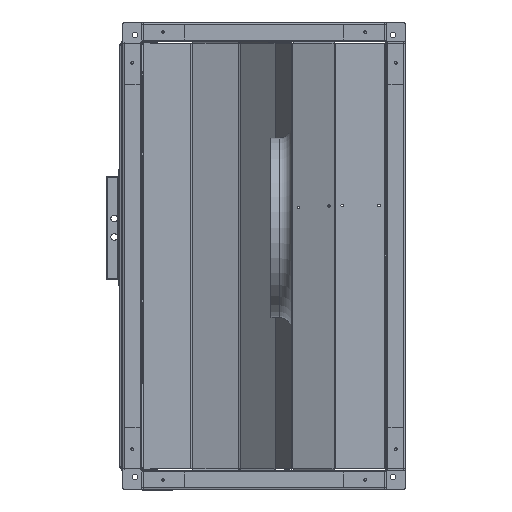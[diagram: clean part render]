
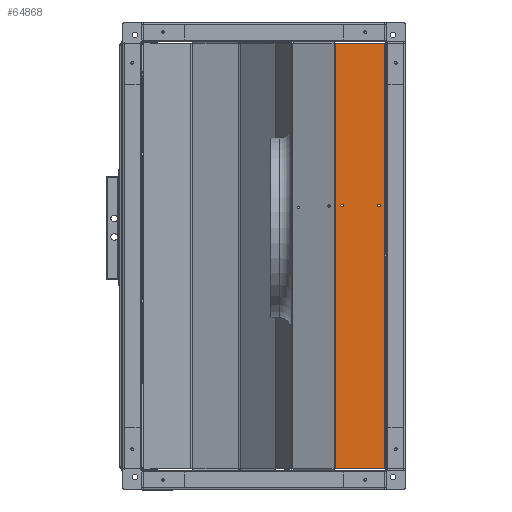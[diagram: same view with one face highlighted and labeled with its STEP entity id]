
A CAD part, left-side view. The second image highlights one B-rep face of the part: STEP entity #64868.
In plain terms, the highlighted planar face has unit normal (-1, 0, 0).
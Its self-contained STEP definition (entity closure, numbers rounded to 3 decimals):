
#5397 = VERTEX_POINT ( 'NONE', #89199 ) ;
#5444 = VERTEX_POINT ( 'NONE', #89208 ) ;
#5564 = VERTEX_POINT ( 'NONE', #84634 ) ;
#5565 = VERTEX_POINT ( 'NONE', #84633 ) ;
#5964 = CARTESIAN_POINT ( 'NONE',  ( -343.5, 3.3, 346.7 ) ) ;
#5965 = CARTESIAN_POINT ( 'NONE',  ( -343.5, 83.27, -346.7 ) ) ;
#9463 = CIRCLE ( 'NONE', #33470, 2.1 ) ;
#9494 = CIRCLE ( 'NONE', #33472, 2.1 ) ;
#9771 = LINE ( 'NONE', #36962, #9778 ) ;
#9778 = VECTOR ( 'NONE', #36964, 1000. ) ;
#9799 = CIRCLE ( 'NONE', #33497, 2.1 ) ;
#9804 = CIRCLE ( 'NONE', #33495, 2.1 ) ;
#9823 = LINE ( 'NONE', #37012, #9830 ) ;
#9830 = VECTOR ( 'NONE', #37013, 1000. ) ;
#9832 = LINE ( 'NONE', #11142, #9838 ) ;
#9838 = VECTOR ( 'NONE', #11145, 1000. ) ;
#9840 = LINE ( 'NONE', #11151, #9847 ) ;
#9847 = VECTOR ( 'NONE', #11154, 1000. ) ;
#11142 = CARTESIAN_POINT ( 'NONE',  ( -343.5, 2.707, 346.7 ) ) ;
#11145 = DIRECTION ( 'NONE',  ( 0., 1., 0. ) ) ;
#11151 = CARTESIAN_POINT ( 'NONE',  ( -343.5, 83.27, 349. ) ) ;
#11154 = DIRECTION ( 'NONE',  ( 0., 0., -1. ) ) ;
#26307 = AXIS2_PLACEMENT_3D ( 'NONE', #59825, #59823, #59829 ) ;
#33470 = AXIS2_PLACEMENT_3D ( 'NONE', #36743, #36744, #36745 ) ;
#33472 = AXIS2_PLACEMENT_3D ( 'NONE', #36761, #36762, #36763 ) ;
#33495 = AXIS2_PLACEMENT_3D ( 'NONE', #37001, #37002, #37003 ) ;
#33497 = AXIS2_PLACEMENT_3D ( 'NONE', #37009, #37010, #37011 ) ;
#36743 = CARTESIAN_POINT ( 'NONE',  ( -343.5, 12.8, 82.222 ) ) ;
#36744 = DIRECTION ( 'NONE',  ( -1., 0., 0. ) ) ;
#36745 = DIRECTION ( 'NONE',  ( 0., 0., 1. ) ) ;
#36761 = CARTESIAN_POINT ( 'NONE',  ( -343.5, 72.8, 82.222 ) ) ;
#36762 = DIRECTION ( 'NONE',  ( -1., 0., 0. ) ) ;
#36763 = DIRECTION ( 'NONE',  ( 0., 0., 1. ) ) ;
#36962 = CARTESIAN_POINT ( 'NONE',  ( -343.5, 3.3, -347.293 ) ) ;
#36964 = DIRECTION ( 'NONE',  ( 0., 0., 1. ) ) ;
#37001 = CARTESIAN_POINT ( 'NONE',  ( -343.5, 72.8, 82.222 ) ) ;
#37002 = DIRECTION ( 'NONE',  ( -1., 0., 0. ) ) ;
#37003 = DIRECTION ( 'NONE',  ( 0., 0., 1. ) ) ;
#37009 = CARTESIAN_POINT ( 'NONE',  ( -343.5, 12.8, 82.222 ) ) ;
#37010 = DIRECTION ( 'NONE',  ( -1., 0., 0. ) ) ;
#37011 = DIRECTION ( 'NONE',  ( 0., 0., 1. ) ) ;
#37012 = CARTESIAN_POINT ( 'NONE',  ( -343.5, 83.751, -346.7 ) ) ;
#37013 = DIRECTION ( 'NONE',  ( 0., -1., 0. ) ) ;
#40273 = EDGE_CURVE ( 'NONE', #5397, #5565, #9463, .T. ) ;
#40281 = EDGE_CURVE ( 'NONE', #85124, #5564, #9494, .T. ) ;
#40359 = EDGE_CURVE ( 'NONE', #63469, #67396, #9771, .T. ) ;
#40369 = EDGE_CURVE ( 'NONE', #5564, #85124, #9804, .T. ) ;
#40373 = EDGE_CURVE ( 'NONE', #5565, #5397, #9799, .T. ) ;
#40375 = EDGE_CURVE ( 'NONE', #67397, #63469, #9823, .T. ) ;
#40377 = EDGE_CURVE ( 'NONE', #67396, #5444, #9832, .T. ) ;
#40379 = EDGE_CURVE ( 'NONE', #5444, #67397, #9840, .T. ) ;
#46901 = EDGE_LOOP ( 'NONE', ( #61481, #61480 ) ) ;
#47225 = EDGE_LOOP ( 'NONE', ( #61479, #61478 ) ) ;
#47333 = EDGE_LOOP ( 'NONE', ( #61477, #61476, #61475, #61474 ) ) ;
#57941 = CARTESIAN_POINT ( 'NONE',  ( -343.5, 72.8, 80.122 ) ) ;
#58997 = FACE_BOUND ( 'NONE', #46901, .T. ) ;
#59003 = FACE_OUTER_BOUND ( 'NONE', #47333, .T. ) ;
#59007 = FACE_BOUND ( 'NONE', #47225, .T. ) ;
#59823 = DIRECTION ( 'NONE',  ( -1., 0., 0. ) ) ;
#59825 = CARTESIAN_POINT ( 'NONE',  ( -343.5, 1., 349. ) ) ;
#59827 = PLANE ( 'NONE',  #26307 ) ;
#59829 = DIRECTION ( 'NONE',  ( 0., 0., 1. ) ) ;
#61474 = ORIENTED_EDGE ( 'NONE', *, *, #40379, .T. ) ;
#61475 = ORIENTED_EDGE ( 'NONE', *, *, #40377, .T. ) ;
#61476 = ORIENTED_EDGE ( 'NONE', *, *, #40359, .T. ) ;
#61477 = ORIENTED_EDGE ( 'NONE', *, *, #40375, .T. ) ;
#61478 = ORIENTED_EDGE ( 'NONE', *, *, #40281, .F. ) ;
#61479 = ORIENTED_EDGE ( 'NONE', *, *, #40369, .F. ) ;
#61480 = ORIENTED_EDGE ( 'NONE', *, *, #40273, .F. ) ;
#61481 = ORIENTED_EDGE ( 'NONE', *, *, #40373, .F. ) ;
#63469 = VERTEX_POINT ( 'NONE', #73313 ) ;
#64868 = ADVANCED_FACE ( 'NONE', ( #58997, #59007, #59003 ), #59827, .T. ) ;
#67396 = VERTEX_POINT ( 'NONE', #5964 ) ;
#67397 = VERTEX_POINT ( 'NONE', #5965 ) ;
#73313 = CARTESIAN_POINT ( 'NONE',  ( -343.5, 3.3, -346.7 ) ) ;
#84633 = CARTESIAN_POINT ( 'NONE',  ( -343.5, 12.8, 84.322 ) ) ;
#84634 = CARTESIAN_POINT ( 'NONE',  ( -343.5, 72.8, 84.322 ) ) ;
#85124 = VERTEX_POINT ( 'NONE', #57941 ) ;
#89199 = CARTESIAN_POINT ( 'NONE',  ( -343.5, 12.8, 80.122 ) ) ;
#89208 = CARTESIAN_POINT ( 'NONE',  ( -343.5, 83.27, 346.7 ) ) ;
